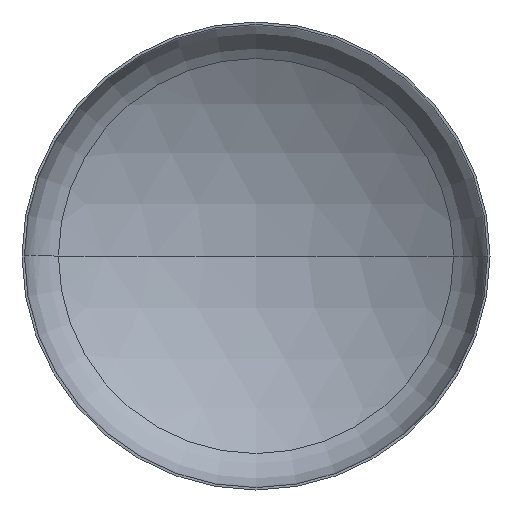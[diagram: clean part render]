
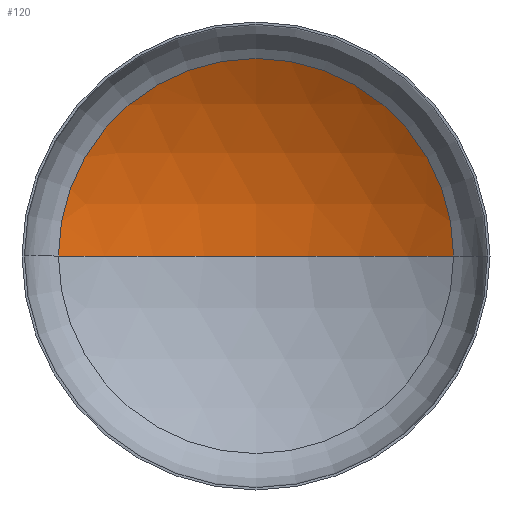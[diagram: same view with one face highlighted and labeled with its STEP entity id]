
A CAD part, front view. The second image highlights one B-rep face of the part: STEP entity #120.
In plain terms, the highlighted spherical face has radius 5200 mm.
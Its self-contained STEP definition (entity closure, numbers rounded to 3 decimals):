
#1 = ORIENTED_EDGE ( 'NONE', *, *, #154, .T. ) ;
#10 = ORIENTED_EDGE ( 'NONE', *, *, #158, .T. ) ;
#11 = DIRECTION ( 'NONE',  ( -1., 0., 0. ) ) ;
#16 = DIRECTION ( 'NONE',  ( 0., 0., -1. ) ) ;
#33 = VERTEX_POINT ( 'NONE', #237 ) ;
#42 = ORIENTED_EDGE ( 'NONE', *, *, #162, .F. ) ;
#66 = VERTEX_POINT ( 'NONE', #349 ) ;
#68 = DIRECTION ( 'NONE',  ( 0., 0., -1. ) ) ;
#85 = EDGE_LOOP ( 'NONE', ( #42, #10, #1 ) ) ;
#98 = VERTEX_POINT ( 'NONE', #324 ) ;
#103 = AXIS2_PLACEMENT_3D ( 'NONE', #329, #202, #243 ) ;
#113 = AXIS2_PLACEMENT_3D ( 'NONE', #283, #68, #260 ) ;
#117 = AXIS2_PLACEMENT_3D ( 'NONE', #259, #399, #304 ) ;
#120 = ADVANCED_FACE ( 'NONE', ( #122 ), #263, .F. ) ;
#122 = FACE_OUTER_BOUND ( 'NONE', #85, .T. ) ;
#129 = AXIS2_PLACEMENT_3D ( 'NONE', #175, #16, #11 ) ;
#154 = EDGE_CURVE ( 'NONE', #98, #66, #370, .T. ) ;
#158 = EDGE_CURVE ( 'NONE', #33, #98, #249, .T. ) ;
#162 = EDGE_CURVE ( 'NONE', #33, #66, #192, .T. ) ;
#175 = CARTESIAN_POINT ( 'NONE',  ( 0., -3457.821, 0. ) ) ;
#192 = CIRCLE ( 'NONE', #103, 5200. ) ;
#202 = DIRECTION ( 'NONE',  ( 0., 0., 1. ) ) ;
#237 = CARTESIAN_POINT ( 'NONE',  ( 0., 1742.179, 0. ) ) ;
#243 = DIRECTION ( 'NONE',  ( 1., 0., 0. ) ) ;
#249 = CIRCLE ( 'NONE', #113, 5200. ) ;
#259 = CARTESIAN_POINT ( 'NONE',  ( 0., 959.481, 0. ) ) ;
#260 = DIRECTION ( 'NONE',  ( -1., 0., 0. ) ) ;
#263 = SPHERICAL_SURFACE ( 'NONE', #129, 5200. ) ;
#283 = CARTESIAN_POINT ( 'NONE',  ( 0., -3457.821, 0. ) ) ;
#304 = DIRECTION ( 'NONE',  ( 1., 0., 0. ) ) ;
#324 = CARTESIAN_POINT ( 'NONE',  ( 2743.619, 959.481, 0. ) ) ;
#329 = CARTESIAN_POINT ( 'NONE',  ( 0., -3457.821, 0. ) ) ;
#349 = CARTESIAN_POINT ( 'NONE',  ( -2743.619, 959.481, 0. ) ) ;
#370 = CIRCLE ( 'NONE', #117, 2743.619 ) ;
#399 = DIRECTION ( 'NONE',  ( 0., -1., 0. ) ) ;
